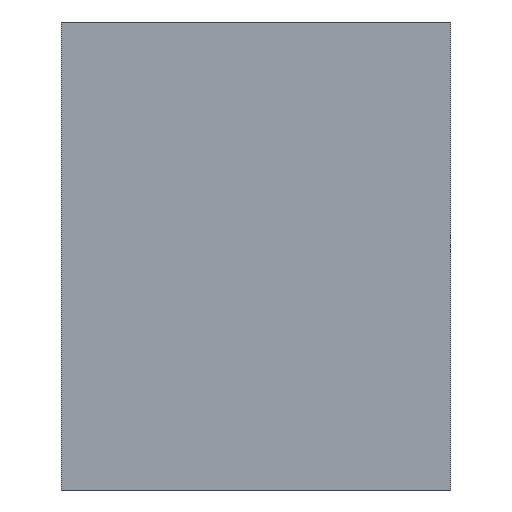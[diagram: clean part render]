
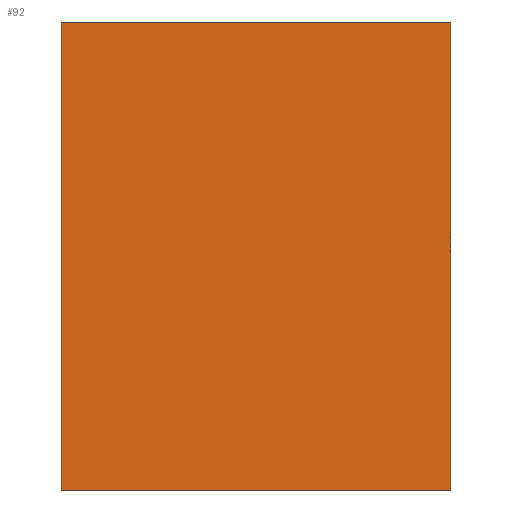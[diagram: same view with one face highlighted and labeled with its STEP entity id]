
A CAD part, top view. The second image highlights one B-rep face of the part: STEP entity #92.
In plain terms, the highlighted planar face has unit normal (0, 0, 1).
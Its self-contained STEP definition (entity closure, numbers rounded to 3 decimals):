
#53=CARTESIAN_POINT('Axis2P3D Location',(0.,0.,0.)) ;
#58=CARTESIAN_POINT('Line Origine',(49.5,0.,0.)) ;
#62=CARTESIAN_POINT('Vertex',(0.,0.,0.)) ;
#64=CARTESIAN_POINT('Vertex',(99.,0.,0.)) ;
#67=CARTESIAN_POINT('Line Origine',(99.,59.5,0.)) ;
#71=CARTESIAN_POINT('Vertex',(99.,119.,0.)) ;
#74=CARTESIAN_POINT('Line Origine',(49.5,119.,0.)) ;
#78=CARTESIAN_POINT('Vertex',(0.,119.,0.)) ;
#81=CARTESIAN_POINT('Line Origine',(0.,59.5,0.)) ;
#54=DIRECTION('Axis2P3D Direction',(0.,0.,1.)) ;
#55=DIRECTION('Axis2P3D XDirection',(1.,0.,0.)) ;
#59=DIRECTION('Vector Direction',(1.,0.,0.)) ;
#68=DIRECTION('Vector Direction',(0.,1.,0.)) ;
#75=DIRECTION('Vector Direction',(-1.,0.,0.)) ;
#82=DIRECTION('Vector Direction',(0.,-1.,0.)) ;
#56=AXIS2_PLACEMENT_3D('Plane Axis2P3D',#53,#54,#55) ;
#87=ORIENTED_EDGE('',*,*,#66,.T.) ;
#88=ORIENTED_EDGE('',*,*,#73,.T.) ;
#89=ORIENTED_EDGE('',*,*,#80,.T.) ;
#90=ORIENTED_EDGE('',*,*,#85,.T.) ;
#60=VECTOR('Line Direction',#59,1.) ;
#69=VECTOR('Line Direction',#68,1.) ;
#76=VECTOR('Line Direction',#75,1.) ;
#83=VECTOR('Line Direction',#82,1.) ;
#92=ADVANCED_FACE('Fill.1',(#91),#57,.T.) ;
#66=EDGE_CURVE('',#63,#65,#61,.T.) ;
#73=EDGE_CURVE('',#65,#72,#70,.T.) ;
#80=EDGE_CURVE('',#72,#79,#77,.T.) ;
#85=EDGE_CURVE('',#79,#63,#84,.T.) ;
#86=EDGE_LOOP('',(#87,#88,#89,#90)) ;
#91=FACE_OUTER_BOUND('',#86,.T.) ;
#61=LINE('Line',#58,#60) ;
#70=LINE('Line',#67,#69) ;
#77=LINE('Line',#74,#76) ;
#84=LINE('Line',#81,#83) ;
#57=PLANE('',#56) ;
#63=VERTEX_POINT('',#62) ;
#65=VERTEX_POINT('',#64) ;
#72=VERTEX_POINT('',#71) ;
#79=VERTEX_POINT('',#78) ;
